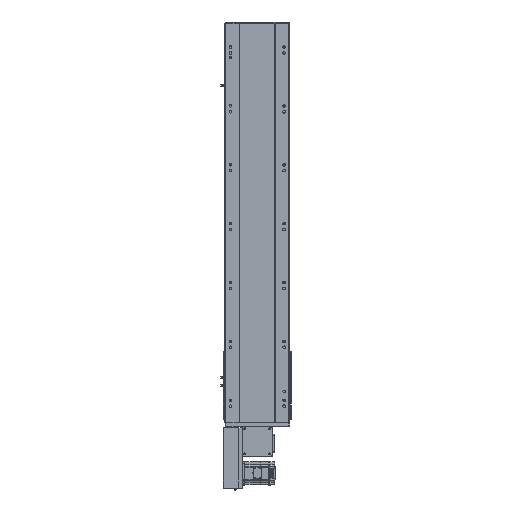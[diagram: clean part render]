
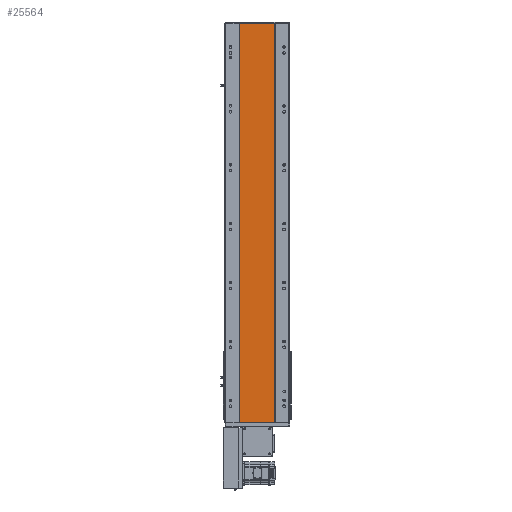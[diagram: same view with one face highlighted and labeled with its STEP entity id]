
A CAD part, front view. The second image highlights one B-rep face of the part: STEP entity #25564.
In plain terms, the highlighted planar face has unit normal (0, -1, 0).
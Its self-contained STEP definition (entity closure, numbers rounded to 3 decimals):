
#337 = CARTESIAN_POINT ( 'NONE',  ( 432.408, 155.016, 1357. ) ) ;
#2717 = ORIENTED_EDGE ( 'NONE', *, *, #12608, .F. ) ;
#4188 = FACE_OUTER_BOUND ( 'NONE', #19167, .T. ) ;
#4638 = CARTESIAN_POINT ( 'NONE',  ( 0., 155.016, 1357. ) ) ;
#5350 = VECTOR ( 'NONE', #21869, 1000. ) ;
#5603 = AXIS2_PLACEMENT_3D ( 'NONE', #31612, #16109, #24889 ) ;
#6207 = EDGE_CURVE ( 'NONE', #29086, #28331, #45790, .T. ) ;
#6881 = CARTESIAN_POINT ( 'NONE',  ( 551.58, 155.016, 1357. ) ) ;
#10410 = DIRECTION ( 'NONE',  ( 0., 0., -1. ) ) ;
#11822 = CARTESIAN_POINT ( 'NONE',  ( 551.58, 155.016, 0. ) ) ;
#12608 = EDGE_CURVE ( 'NONE', #46281, #41670, #23540, .T. ) ;
#12985 = PLANE ( 'NONE',  #5603 ) ;
#14307 = LINE ( 'NONE', #45829, #48852 ) ;
#16107 = EDGE_CURVE ( 'NONE', #41670, #28331, #42338, .T. ) ;
#16109 = DIRECTION ( 'NONE',  ( 0., 1., 0. ) ) ;
#19167 = EDGE_LOOP ( 'NONE', ( #38446, #21765, #2717, #45512 ) ) ;
#19665 = CARTESIAN_POINT ( 'NONE',  ( 551.58, 155.016, 1357. ) ) ;
#21765 = ORIENTED_EDGE ( 'NONE', *, *, #16107, .F. ) ;
#21869 = DIRECTION ( 'NONE',  ( 0., 0., -1. ) ) ;
#23540 = LINE ( 'NONE', #4638, #40471 ) ;
#24889 = DIRECTION ( 'NONE',  ( 0., 0., 1. ) ) ;
#25564 = ADVANCED_FACE ( 'NONE', ( #4188 ), #12985, .F. ) ;
#26145 = CARTESIAN_POINT ( 'NONE',  ( 0., 155.016, 0. ) ) ;
#27447 = DIRECTION ( 'NONE',  ( 1., 0., 0. ) ) ;
#28331 = VERTEX_POINT ( 'NONE', #11822 ) ;
#29086 = VERTEX_POINT ( 'NONE', #31020 ) ;
#31020 = CARTESIAN_POINT ( 'NONE',  ( 432.408, 155.016, 0. ) ) ;
#31612 = CARTESIAN_POINT ( 'NONE',  ( 0., 155.016, 1357. ) ) ;
#33830 = VECTOR ( 'NONE', #50155, 1000. ) ;
#38446 = ORIENTED_EDGE ( 'NONE', *, *, #6207, .T. ) ;
#40056 = EDGE_CURVE ( 'NONE', #46281, #29086, #14307, .T. ) ;
#40471 = VECTOR ( 'NONE', #27447, 1000. ) ;
#41670 = VERTEX_POINT ( 'NONE', #19665 ) ;
#42338 = LINE ( 'NONE', #6881, #5350 ) ;
#45512 = ORIENTED_EDGE ( 'NONE', *, *, #40056, .T. ) ;
#45790 = LINE ( 'NONE', #26145, #33830 ) ;
#45829 = CARTESIAN_POINT ( 'NONE',  ( 432.408, 155.016, 1357. ) ) ;
#46281 = VERTEX_POINT ( 'NONE', #337 ) ;
#48852 = VECTOR ( 'NONE', #10410, 1000. ) ;
#50155 = DIRECTION ( 'NONE',  ( 1., 0., 0. ) ) ;
